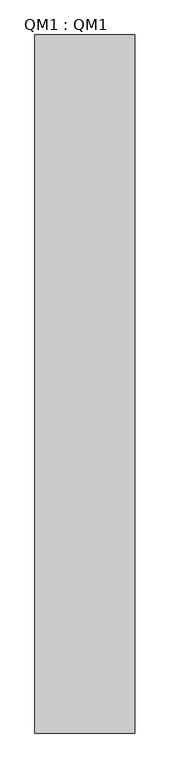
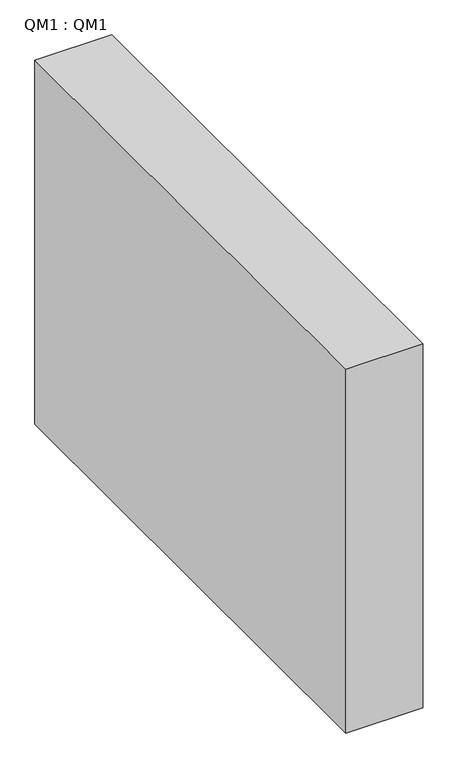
"""IFC4 building model written with IfcOpenShell, lengths in millimetres: proxy geometry, QM1 : QM1."""

from ifc_helpers import new_model, si_unit, frame, origin, place, context, project, spatial, polyline, outline, extrude, source, transform, mapped, element, save


def qm1_qm1_c025507f(model_context):
    return source(origin(), model_context, "Body", "SweptSolid", [
        extrude(outline(polyline([(22977.7, 6474.37), (23377.7, 6474.37), (23377.7, 3674.37), (22977.7, 3674.37), (22977.7, 6474.37)])), frame((0.0, 0.0, -650.0), z_axis=(0.0, 0.0, 1.0), x_axis=(1.0, 0.0, 0.0)), (0.0, 0.0, 1.0), 2000.0),
    ])


if __name__ == "__main__":
    model = new_model("IFC4")
    model_context = context("Model", 3, world=origin())
    ifc_project = project(units=[si_unit("LENGTHUNIT", "METRE", prefix="MILLI")], contexts=[model_context])
    site = spatial("IfcSite", under=ifc_project)
    building = spatial("IfcBuilding", under=site)
    placement = place(None, origin())
    qm1_qm1_shape = qm1_qm1_c025507f(model_context)
    element("IfcBuildingElementProxy", 1, Name="QM1 : QM1", ObjectType="QM1 : QM1", at=placement, inside=building, context=model_context, shape_type="MappedRepresentation", body=[
        mapped(qm1_qm1_shape, transform((0.0, 0.0, 0.0), x_axis=(1.0, 0.0, 0.0), y_axis=(0.0, 1.0, 0.0), z_axis=(0.0, 0.0, 1.0))),
    ])
    save(model, "model.ifc")
